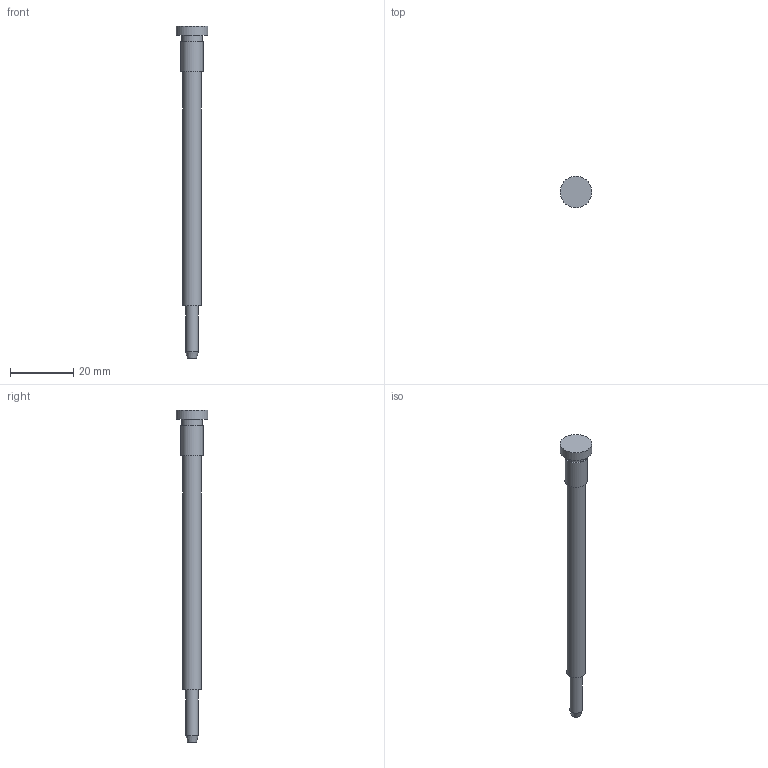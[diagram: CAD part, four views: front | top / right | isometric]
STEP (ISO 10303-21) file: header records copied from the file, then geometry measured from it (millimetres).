
FILE_DESCRIPTION(('Open CASCADE Model'),'2;1');
FILE_NAME('Open CASCADE Shape Model','2026-09-27T02:18:03',('Author'),( 'Open CASCADE'),'Open CASCADE STEP processor 7.9','Open CASCADE 7.9' ,'Unknown');
FILE_SCHEMA(('AUTOMOTIVE_DESIGN { 1 0 10303 214 1 1 1 1 }'));
Length unit declared in the file: millimetre
Products named in the file (1): Open CASCADE STEP translator 7.9 5
Bounding box: 10 x 10 x 105 mm (x, y, z)
Volume: 2959.1 mm3; surface area: 2106.9 mm2
Topology: 1 solids, 1 shells, 12 faces, 17 edges, 11 vertices
Faces by surface type: plane 6, cylinder 5, cone 1
Full cylindrical faces by diameter (mm): 4 x1, 6 x1, 6.4 x1, 7 x1, 10 x1
Entity records: 494 total; most frequent: DIRECTION 87, CARTESIAN_POINT 76, ORIENTED_EDGE 34, PCURVE 34, DEFINITIONAL_REPRESENTATION 34, LINE 29, VECTOR 29, AXIS2_PLACEMENT_3D 24
